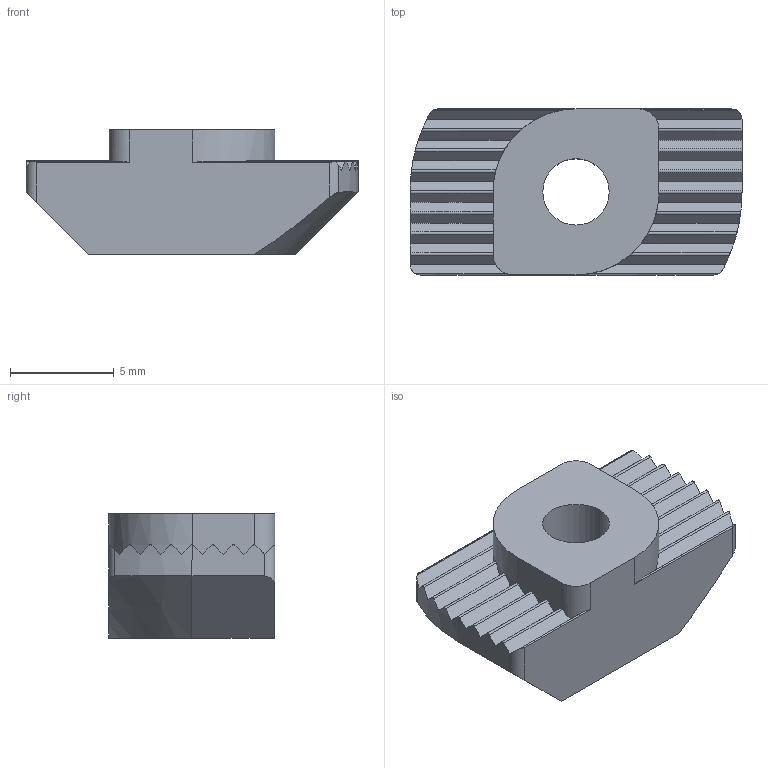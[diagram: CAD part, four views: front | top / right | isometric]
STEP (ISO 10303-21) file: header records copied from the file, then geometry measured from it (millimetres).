
FILE_DESCRIPTION (( 'STEP AP203' ), '1' );
FILE_NAME ('096h08415.STEP', '2013-05-17T07:46:38', ( 'USER' ), ( '' ), 'SwSTEP 2.0', 'SolidWorks 2012', '' );
FILE_SCHEMA (( 'CONFIG_CONTROL_DESIGN' ));
Length unit declared in the file: millimetre
Products named in the file (1): 096h08415
Bounding box: 16 x 8 x 6 mm (x, y, z)
Volume: 511.2 mm3; surface area: 519.4 mm2
Topology: 1 solids, 1 shells, 76 faces, 218 edges, 144 vertices
Faces by surface type: plane 42, cylinder 32, cone 2
Entity records: 2775 total; most frequent: CARTESIAN_POINT 869, ORIENTED_EDGE 436, DIRECTION 324, EDGE_CURVE 218, VERTEX_POINT 144, LINE 114, VECTOR 114, AXIS2_PLACEMENT_3D 105
